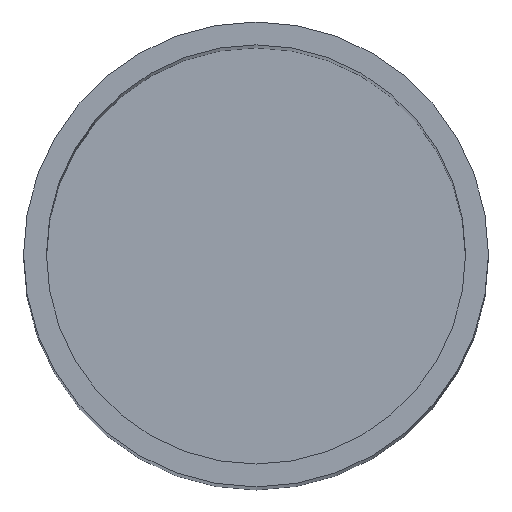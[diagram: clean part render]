
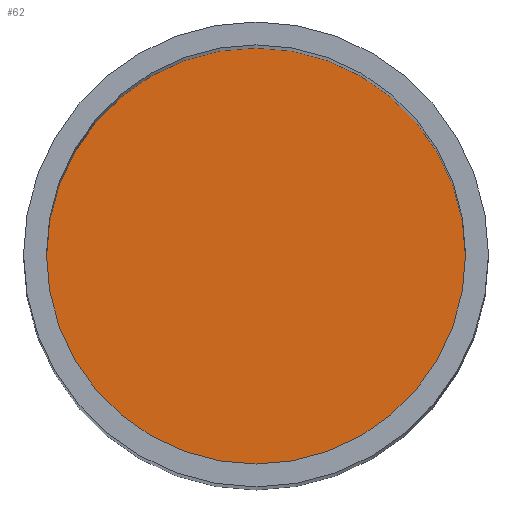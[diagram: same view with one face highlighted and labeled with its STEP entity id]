
A CAD part, top view. The second image highlights one B-rep face of the part: STEP entity #62.
In plain terms, the highlighted planar face has unit normal (0, 0, 1).
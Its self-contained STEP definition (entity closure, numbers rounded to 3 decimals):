
#22=FACE_OUTER_BOUND('',#27,.T.);
#27=EDGE_LOOP('',(#47));
#33=CIRCLE('',#91,2.75);
#37=VERTEX_POINT('',#123);
#41=EDGE_CURVE('',#37,#37,#33,.T.);
#47=ORIENTED_EDGE('',*,*,#41,.T.);
#59=PLANE('',#90);
#62=ADVANCED_FACE('',(#22),#59,.F.);
#90=AXIS2_PLACEMENT_3D('',#122,#101,#102);
#91=AXIS2_PLACEMENT_3D('',#124,#103,#104);
#101=DIRECTION('center_axis',(0.,0.,-1.));
#102=DIRECTION('ref_axis',(-1.,0.,0.));
#103=DIRECTION('center_axis',(0.,0.,1.));
#104=DIRECTION('ref_axis',(-1.,0.,0.));
#122=CARTESIAN_POINT('Origin',(0.,0.,0.));
#123=CARTESIAN_POINT('',(2.75,0.,0.));
#124=CARTESIAN_POINT('Origin',(0.,0.,0.));
